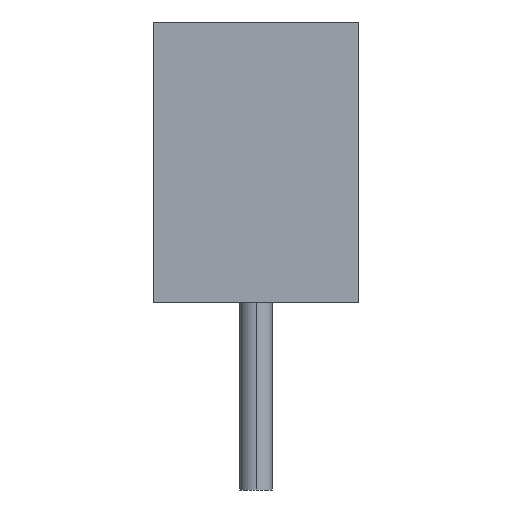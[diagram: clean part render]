
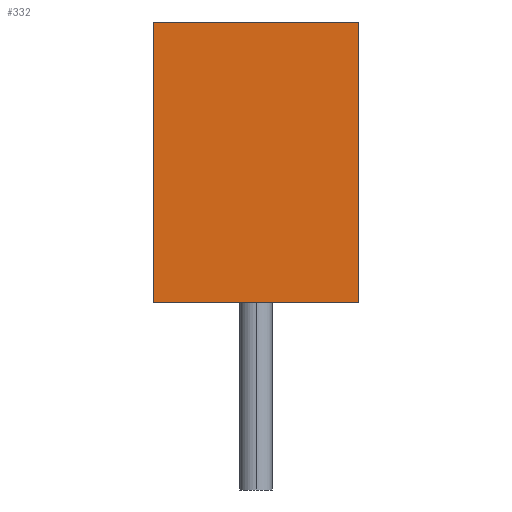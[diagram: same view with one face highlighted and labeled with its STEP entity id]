
A CAD part, left-side view. The second image highlights one B-rep face of the part: STEP entity #332.
In plain terms, the highlighted planar face has unit normal (-1, 0, 0).
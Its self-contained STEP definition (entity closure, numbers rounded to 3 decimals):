
#1 = CARTESIAN_POINT ( 'NONE',  ( -65., 11., -15. ) ) ;
#46 = DIRECTION ( 'NONE',  ( 0., 0., 1. ) ) ;
#50 = DIRECTION ( 'NONE',  ( 0., 0., 1. ) ) ;
#61 = FACE_OUTER_BOUND ( 'NONE', #678, .T. ) ;
#74 = LINE ( 'NONE', #240, #670 ) ;
#77 = VERTEX_POINT ( 'NONE', #481 ) ;
#86 = CARTESIAN_POINT ( 'NONE',  ( -65., -11., -15. ) ) ;
#111 = DIRECTION ( 'NONE',  ( 0., 0., -1. ) ) ;
#179 = ORIENTED_EDGE ( 'NONE', *, *, #571, .T. ) ;
#183 = DIRECTION ( 'NONE',  ( 0., -1., 0. ) ) ;
#227 = LINE ( 'NONE', #573, #667 ) ;
#240 = CARTESIAN_POINT ( 'NONE',  ( -65., 11., 15. ) ) ;
#258 = VECTOR ( 'NONE', #50, 1000. ) ;
#332 = ADVANCED_FACE ( 'NONE', ( #61 ), #509, .F. ) ;
#364 = CARTESIAN_POINT ( 'NONE',  ( -65., 11., 15. ) ) ;
#382 = AXIS2_PLACEMENT_3D ( 'NONE', #417, #713, #111 ) ;
#417 = CARTESIAN_POINT ( 'NONE',  ( -65., 11., -15. ) ) ;
#436 = ORIENTED_EDGE ( 'NONE', *, *, #555, .T. ) ;
#444 = ORIENTED_EDGE ( 'NONE', *, *, #596, .F. ) ;
#466 = LINE ( 'NONE', #1, #258 ) ;
#481 = CARTESIAN_POINT ( 'NONE',  ( -65., -11., 15. ) ) ;
#502 = CARTESIAN_POINT ( 'NONE',  ( -65., 11., -15. ) ) ;
#509 = PLANE ( 'NONE',  #382 ) ;
#542 = CARTESIAN_POINT ( 'NONE',  ( -65., 11., -15. ) ) ;
#547 = VERTEX_POINT ( 'NONE', #86 ) ;
#554 = VECTOR ( 'NONE', #726, 1000. ) ;
#555 = EDGE_CURVE ( 'NONE', #547, #77, #227, .T. ) ;
#571 = EDGE_CURVE ( 'NONE', #710, #547, #700, .T. ) ;
#573 = CARTESIAN_POINT ( 'NONE',  ( -65., -11., -15. ) ) ;
#596 = EDGE_CURVE ( 'NONE', #710, #679, #466, .T. ) ;
#619 = ORIENTED_EDGE ( 'NONE', *, *, #701, .F. ) ;
#667 = VECTOR ( 'NONE', #46, 1000. ) ;
#670 = VECTOR ( 'NONE', #183, 1000. ) ;
#678 = EDGE_LOOP ( 'NONE', ( #436, #619, #444, #179 ) ) ;
#679 = VERTEX_POINT ( 'NONE', #364 ) ;
#700 = LINE ( 'NONE', #542, #554 ) ;
#701 = EDGE_CURVE ( 'NONE', #679, #77, #74, .T. ) ;
#710 = VERTEX_POINT ( 'NONE', #502 ) ;
#713 = DIRECTION ( 'NONE',  ( 1., 0., 0. ) ) ;
#726 = DIRECTION ( 'NONE',  ( 0., -1., 0. ) ) ;
